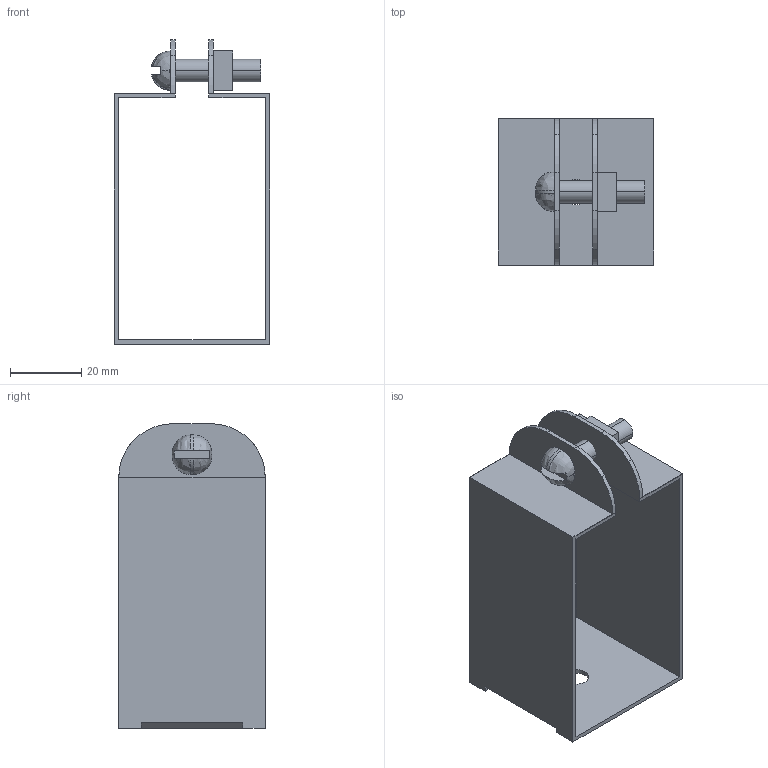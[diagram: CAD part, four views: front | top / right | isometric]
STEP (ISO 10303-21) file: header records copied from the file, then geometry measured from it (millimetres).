
FILE_DESCRIPTION(('TurboCAD Mac Pro'),'Build 980');
FILE_NAME('P5539.stp',' ',(''),(''),'ACIS Interop','IMSI','TurboCAD Mac Pro BY IMSI, INCORPORATED');
FILE_SCHEMA(('automotive_design'));
Length unit declared in the file: inch
Products named in the file (3): 1; 2; 3
Bounding box: 43.71 x 41.27 x 85.78 mm (x, y, z)
Volume: 13597.2 mm3; surface area: 21741.6 mm2
Topology: 3 solids, 3 shells, 63 faces, 168 edges, 112 vertices
Faces by surface type: plane 37, bspline 18, cylinder 8
Entity records: 4071 total; most frequent: CARTESIAN_POINT 2039, ORIENTED_EDGE 336, DIRECTION 238, EDGE_CURVE 168, VERTEX_POINT 112, LINE 102, VECTOR 102, AXIS2_PLACEMENT_3D 68
